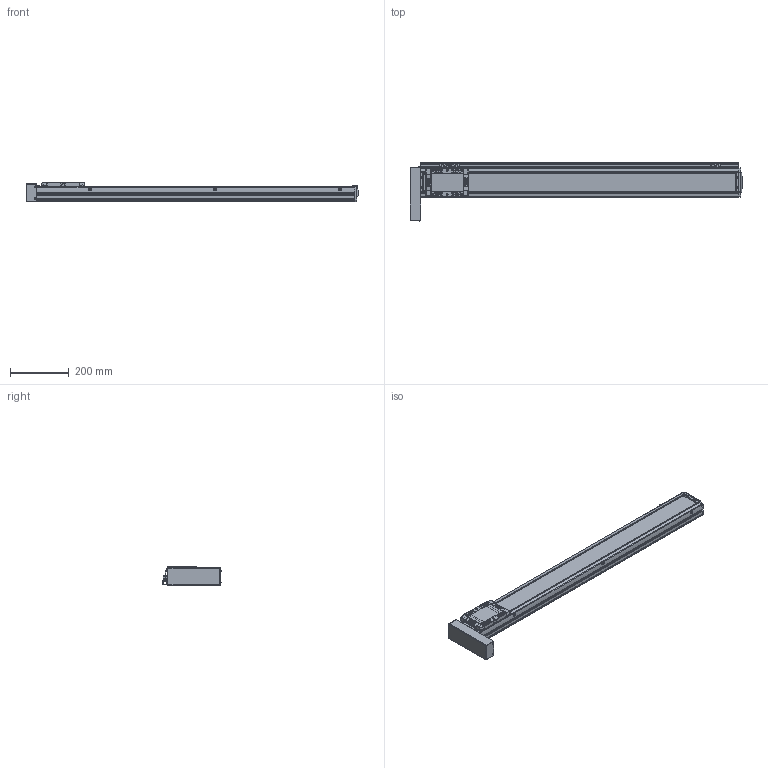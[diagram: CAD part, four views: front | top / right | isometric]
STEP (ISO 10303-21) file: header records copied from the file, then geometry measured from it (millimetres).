
FILE_DESCRIPTION(('STEP AP214'),'1');
FILE_NAME('Z:/Web/3D/SAN100/SAN100 양산용 (STEP)/SAN100ㅁㅁ-900PR+3SL.stp','2013-04-30T04:41:34',(' '),(' '),'Spatial InterOp 3D',' ',' ');
FILE_SCHEMA(('automotive_design'));
Length unit declared in the file: millimetre
Products named in the file (51): SGD-SAN100; M3.0 x 6.0; SRL-16x17-380L; EE-SX674; SBK-SX674-352; 스크루 : Round - M3.0 x 6.0; BTCV-SAN65; BHCS M3 X 6L; SUS COVER; SFX-SAN100; RRCV-SAN100; 스크루 : Round - M4.0 x 10.0; FRBL-SAN100; SLBL-SAN100; SLCV-SAN100; 스크루 : Countersunk - M3.0 x 6.0; BASE; 스크루 : Round - M5.0 x 6.0
Bounding box: 1126.5 x 197.06 x 66 mm (x, y, z)
Volume: 3365627.1 mm3; surface area: 866666.6 mm2
Topology: 51 solids, 52 shells, 2507 faces, 6542 edges, 4227 vertices
Faces by surface type: plane 1314, cylinder 877, cone 214, sphere 68, torus 18, bspline 16
Entity records: 99016 total; most frequent: CARTESIAN_POINT 14901, DIRECTION 13765, ORIENTED_EDGE 12872, EDGE_CURVE 6436, AXIS2_PLACEMENT_3D 4904, VERTEX_POINT 4227, LINE 3957, VECTOR 3957
